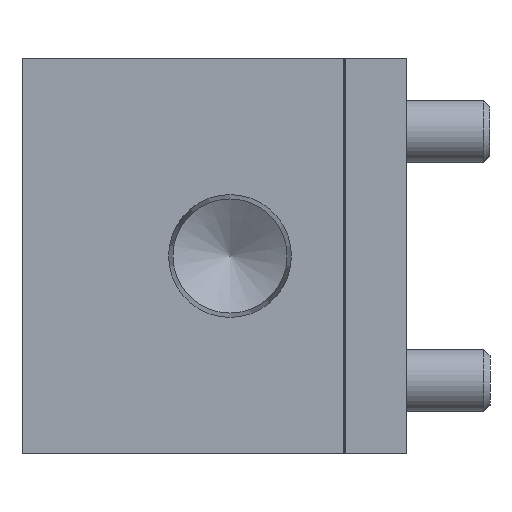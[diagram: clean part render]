
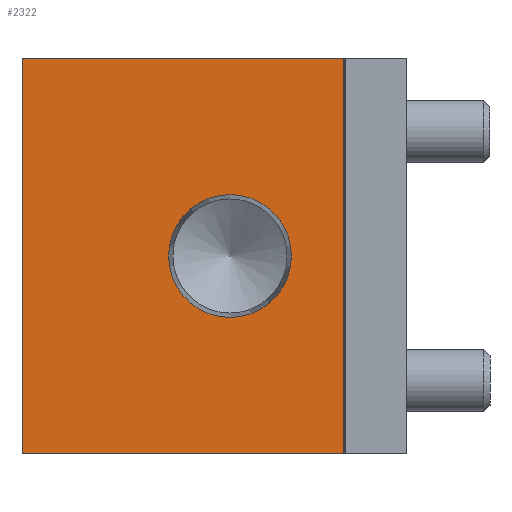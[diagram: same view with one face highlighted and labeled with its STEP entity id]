
A CAD part, left-side view. The second image highlights one B-rep face of the part: STEP entity #2322.
In plain terms, the highlighted planar face has unit normal (-1, 0, 0).
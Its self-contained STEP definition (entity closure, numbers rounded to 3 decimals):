
#2322 = ADVANCED_FACE( '', ( #4977, #4978 ), #4979, .F. );
#4977 = FACE_BOUND( '', #7978, .T. );
#4978 = FACE_OUTER_BOUND( '', #7979, .T. );
#4979 = PLANE( '', #7980 );
#7978 = EDGE_LOOP( '', ( #13518 ) );
#7979 = EDGE_LOOP( '', ( #13519, #13520, #13521, #13522 ) );
#7980 = AXIS2_PLACEMENT_3D( '', #13523, #13524, #13525 );
#13518 = ORIENTED_EDGE( '', *, *, #16157, .T. );
#13519 = ORIENTED_EDGE( '', *, *, #16627, .T. );
#13520 = ORIENTED_EDGE( '', *, *, #17743, .F. );
#13521 = ORIENTED_EDGE( '', *, *, #17465, .F. );
#13522 = ORIENTED_EDGE( '', *, *, #16587, .T. );
#13523 = CARTESIAN_POINT( '', ( 0., 37., 19. ) );
#13524 = DIRECTION( '', ( 1., 0., 0. ) );
#13525 = DIRECTION( '', ( 0., 0., -1. ) );
#16157 = EDGE_CURVE( '', #18992, #18992, #18993, .T. );
#16587 = EDGE_CURVE( '', #19687, #19685, #19688, .T. );
#16627 = EDGE_CURVE( '', #19685, #19745, #19748, .T. );
#17465 = EDGE_CURVE( '', #19687, #18817, #20896, .T. );
#17743 = EDGE_CURVE( '', #18817, #19745, #21240, .T. );
#18817 = VERTEX_POINT( '', #22545 );
#18992 = VERTEX_POINT( '', #22761 );
#18993 = CIRCLE( '', #22762, 5.91 );
#19685 = VERTEX_POINT( '', #23678 );
#19687 = VERTEX_POINT( '', #23681 );
#19688 = LINE( '', #23682, #23683 );
#19745 = VERTEX_POINT( '', #23754 );
#19748 = LINE( '', #23758, #23759 );
#20896 = LINE( '', #25281, #25282 );
#21240 = LINE( '', #25734, #25735 );
#22545 = CARTESIAN_POINT( '', ( 0., 6.1, 19. ) );
#22761 = CARTESIAN_POINT( '', ( 0., 17., -5.91 ) );
#22762 = AXIS2_PLACEMENT_3D( '', #26978, #26979, #26980 );
#23678 = CARTESIAN_POINT( '', ( 0., 37., -19. ) );
#23681 = CARTESIAN_POINT( '', ( 0., 37., 19. ) );
#23682 = CARTESIAN_POINT( '', ( 0., 37., 19. ) );
#23683 = VECTOR( '', #27500, 1000. );
#23754 = CARTESIAN_POINT( '', ( 0., 6.1, -19. ) );
#23758 = CARTESIAN_POINT( '', ( 0., 37., -19. ) );
#23759 = VECTOR( '', #27549, 1000. );
#25281 = CARTESIAN_POINT( '', ( 0., 37., 19. ) );
#25282 = VECTOR( '', #28497, 1000. );
#25734 = CARTESIAN_POINT( '', ( 0., 6.1, 19. ) );
#25735 = VECTOR( '', #28756, 1000. );
#26978 = CARTESIAN_POINT( '', ( 0., 17., 0. ) );
#26979 = DIRECTION( '', ( 1., 0., 0. ) );
#26980 = DIRECTION( '', ( 0., 0., -1. ) );
#27500 = DIRECTION( '', ( 0., 0., -1. ) );
#27549 = DIRECTION( '', ( 0., -1., 0. ) );
#28497 = DIRECTION( '', ( 0., -1., 0. ) );
#28756 = DIRECTION( '', ( 0., 0., -1. ) );
